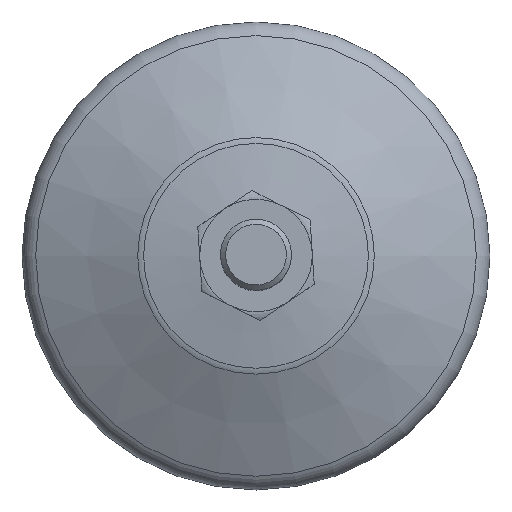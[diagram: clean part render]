
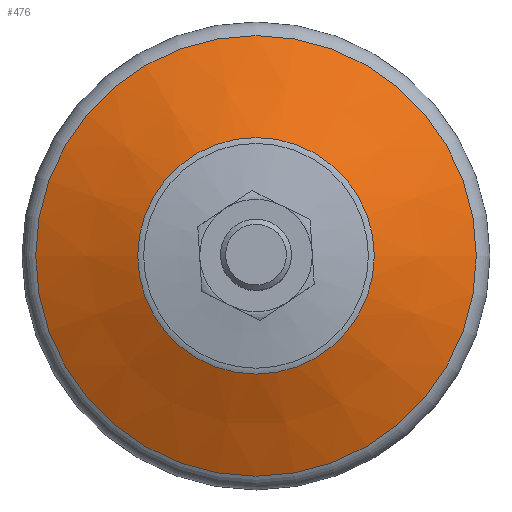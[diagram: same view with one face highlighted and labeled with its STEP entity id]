
A CAD part, top view. The second image highlights one B-rep face of the part: STEP entity #476.
In plain terms, the highlighted conical face has half-angle 65 degrees and reference radius 19.971 mm.
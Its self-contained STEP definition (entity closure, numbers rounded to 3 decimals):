
#476=ADVANCED_FACE('',(#799,#800),#801,.T.);
#799=FACE_BOUND('',#1100,.T.);
#800=FACE_OUTER_BOUND('',#1101,.T.);
#801=CONICAL_SURFACE('',#1102,19.971,1.134);
#1100=EDGE_LOOP('',(#1712));
#1101=EDGE_LOOP('',(#1713));
#1102=AXIS2_PLACEMENT_3D('',#1714,#1715,#1716);
#1712=ORIENTED_EDGE('',*,*,#1977,.T.);
#1713=ORIENTED_EDGE('',*,*,#1973,.F.);
#1714=CARTESIAN_POINT('',(0.0,0.0,15.707));
#1715=DIRECTION('',(-0.0,0.0,-1.0));
#1716=DIRECTION('',(-1.0,0.0,0.0));
#1973=EDGE_CURVE('',#2299,#2299,#2300,.T.);
#1977=EDGE_CURVE('',#2305,#2305,#2306,.T.);
#2299=VERTEX_POINT('',#3232);
#2300=CIRCLE('',#3233,37.19);
#2305=VERTEX_POINT('',#3238);
#2306=CIRCLE('',#3239,19.971);
#3232=CARTESIAN_POINT('',(-37.19,0.0,7.677));
#3233=AXIS2_PLACEMENT_3D('',#3487,#3488,#3489);
#3238=CARTESIAN_POINT('',(-19.971,0.0,15.707));
#3239=AXIS2_PLACEMENT_3D('',#3493,#3494,#3495);
#3487=CARTESIAN_POINT('',(0.0,0.0,7.677));
#3488=DIRECTION('',(0.0,0.0,-1.0));
#3489=DIRECTION('',(-1.0,0.0,0.0));
#3493=CARTESIAN_POINT('',(0.0,0.0,15.707));
#3494=DIRECTION('',(0.0,0.0,-1.0));
#3495=DIRECTION('',(-1.0,0.0,0.0));
